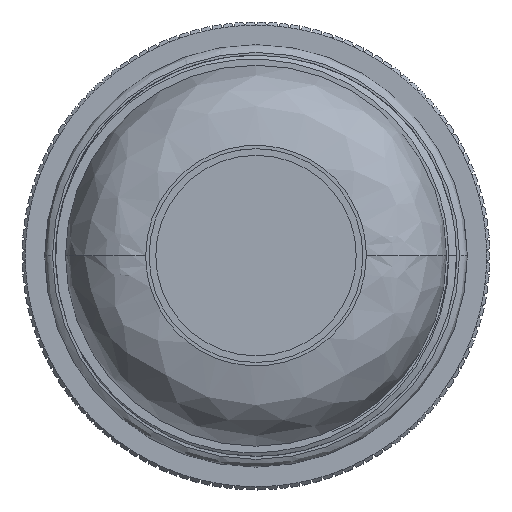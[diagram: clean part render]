
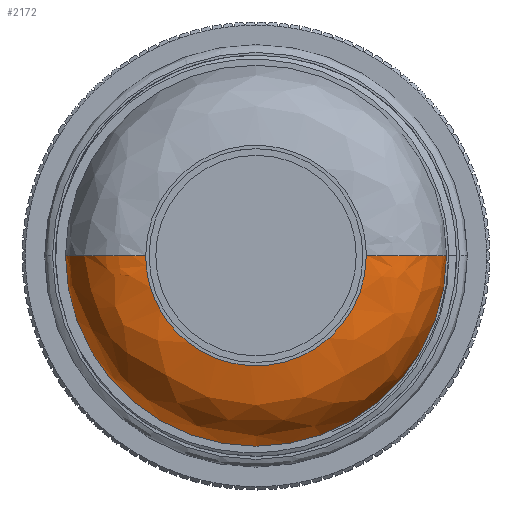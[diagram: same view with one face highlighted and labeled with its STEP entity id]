
A CAD part, top view. The second image highlights one B-rep face of the part: STEP entity #2172.
In plain terms, the highlighted free-form (B-spline) face has degree [3, 3] with [4, 4] control points.
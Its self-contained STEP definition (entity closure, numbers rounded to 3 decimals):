
#2046 = VERTEX_POINT ( 'NONE', #9429 ) ;
#2048 = ORIENTED_EDGE ( 'NONE', *, *, #2049, .F. ) ;
#2049 = EDGE_CURVE ( 'NONE', #2060, #2066, #9428, .T. ) ;
#2051 = ORIENTED_EDGE ( 'NONE', *, *, #2064, .T. ) ;
#2053 = VERTEX_POINT ( 'NONE', #9498 ) ;
#2059 = EDGE_CURVE ( 'NONE', #2060, #2053, #9470, .T. ) ;
#2060 = VERTEX_POINT ( 'NONE', #9469 ) ;
#2064 = EDGE_CURVE ( 'NONE', #2053, #2046, #9418, .T. ) ;
#2065 = ORIENTED_EDGE ( 'NONE', *, *, #2075, .T. ) ;
#2066 = VERTEX_POINT ( 'NONE', #9552 ) ;
#2068 = ORIENTED_EDGE ( 'NONE', *, *, #2059, .T. ) ;
#2075 = EDGE_CURVE ( 'NONE', #2046, #2066, #9541, .T. ) ;
#2076 = EDGE_LOOP ( 'NONE', ( #2068, #2051, #2065, #2048 ) ) ;
#2172 = ADVANCED_FACE ( 'NONE', ( #9759 ), #9950, .T. ) ;
#9418 = CIRCLE ( 'NONE', #9556, 12. ) ;
#9428 = CIRCLE ( 'NONE', #9502, 12. ) ;
#9429 = CARTESIAN_POINT ( 'NONE',  ( -28.5, 407., 63.5 ) ) ;
#9468 = CARTESIAN_POINT ( 'NONE',  ( 16.5, 407., 75.5 ) ) ;
#9469 = CARTESIAN_POINT ( 'NONE',  ( 16.5, 407., 75.5 ) ) ;
#9470 =( BOUNDED_CURVE ( )  B_SPLINE_CURVE ( 3, ( #9468, #9474, #9473, #9472 ),
 .UNSPECIFIED., .F., .T. ) 
 B_SPLINE_CURVE_WITH_KNOTS ( ( 4, 4 ),
 ( 0., 0.5 ),
 .UNSPECIFIED. ) 
 CURVE ( )  GEOMETRIC_REPRESENTATION_ITEM ( )  RATIONAL_B_SPLINE_CURVE ( ( 1., 0.333, 0.333, 1. ) ) 
 REPRESENTATION_ITEM ( '' )  );
#9472 = CARTESIAN_POINT ( 'NONE',  ( -16.5, 407., 75.5 ) ) ;
#9473 = CARTESIAN_POINT ( 'NONE',  ( -16.5, 374., 75.5 ) ) ;
#9474 = CARTESIAN_POINT ( 'NONE',  ( 16.5, 374., 75.5 ) ) ;
#9498 = CARTESIAN_POINT ( 'NONE',  ( -16.5, 407., 75.5 ) ) ;
#9499 = DIRECTION ( 'NONE',  ( 1., 0., 0. ) ) ;
#9500 = DIRECTION ( 'NONE',  ( 0., 1., 0. ) ) ;
#9501 = CARTESIAN_POINT ( 'NONE',  ( 16.5, 407., 63.5 ) ) ;
#9502 = AXIS2_PLACEMENT_3D ( 'NONE', #9501, #9500, #9499 ) ;
#9537 = DIRECTION ( 'NONE',  ( 0., -1., 0. ) ) ;
#9538 = DIRECTION ( 'NONE',  ( 0., 0., 1. ) ) ;
#9539 = CARTESIAN_POINT ( 'NONE',  ( 0., 407., 63.5 ) ) ;
#9540 = AXIS2_PLACEMENT_3D ( 'NONE', #9539, #9538, #9537 ) ;
#9541 = CIRCLE ( 'NONE', #9540, 28.5 ) ;
#9552 = CARTESIAN_POINT ( 'NONE',  ( 28.5, 407., 63.5 ) ) ;
#9553 = DIRECTION ( 'NONE',  ( -1., 0., 0. ) ) ;
#9554 = DIRECTION ( 'NONE',  ( 0., -1., 0. ) ) ;
#9555 = CARTESIAN_POINT ( 'NONE',  ( -16.5, 407., 63.5 ) ) ;
#9556 = AXIS2_PLACEMENT_3D ( 'NONE', #9555, #9554, #9553 ) ;
#9759 = FACE_OUTER_BOUND ( 'NONE', #2076, .T. ) ;
#9762 = CARTESIAN_POINT ( 'NONE',  ( 16.5, 407., 75.5 ) ) ;
#9763 = CARTESIAN_POINT ( 'NONE',  ( 16.5, 374., 75.5 ) ) ;
#9764 = CARTESIAN_POINT ( 'NONE',  ( -16.5, 374., 75.5 ) ) ;
#9765 = CARTESIAN_POINT ( 'NONE',  ( -16.5, 407., 75.5 ) ) ;
#9766 = CARTESIAN_POINT ( 'NONE',  ( 28.5, 407., 63.5 ) ) ;
#9767 = CARTESIAN_POINT ( 'NONE',  ( 28.5, 350., 63.5 ) ) ;
#9768 = CARTESIAN_POINT ( 'NONE',  ( -28.5, 350., 63.5 ) ) ;
#9769 = CARTESIAN_POINT ( 'NONE',  ( -28.5, 407., 63.5 ) ) ;
#9770 = CARTESIAN_POINT ( 'NONE',  ( 28.5, 407., 70.529 ) ) ;
#9771 = CARTESIAN_POINT ( 'NONE',  ( 28.5, 350., 70.529 ) ) ;
#9774 = CARTESIAN_POINT ( 'NONE',  ( -28.5, 350., 70.529 ) ) ;
#9775 = CARTESIAN_POINT ( 'NONE',  ( -28.5, 407., 70.529 ) ) ;
#9776 = CARTESIAN_POINT ( 'NONE',  ( 23.53, 407., 75.5 ) ) ;
#9777 = CARTESIAN_POINT ( 'NONE',  ( 23.53, 359.941, 75.5 ) ) ;
#9778 = CARTESIAN_POINT ( 'NONE',  ( -23.53, 359.941, 75.5 ) ) ;
#9779 = CARTESIAN_POINT ( 'NONE',  ( -23.53, 407., 75.5 ) ) ;
#9950 =( BOUNDED_SURFACE ( )  B_SPLINE_SURFACE ( 3, 3, ( 
 ( #9765, #9764, #9763, #9762 ),
 ( #9779, #9778, #9777, #9776 ),
 ( #9775, #9774, #9771, #9770 ),
 ( #9769, #9768, #9767, #9766 ) ),
 .UNSPECIFIED., .F., .F., .T. ) 
 B_SPLINE_SURFACE_WITH_KNOTS ( ( 4, 4 ),
 ( 4, 4 ),
 ( 0., 1. ),
 ( 0., 1. ),
 .UNSPECIFIED. ) 
 GEOMETRIC_REPRESENTATION_ITEM ( )  RATIONAL_B_SPLINE_SURFACE ( (
 ( 1., 0.333, 0.333, 1.),
 ( 0.805, 0.268, 0.268, 0.805),
 ( 0.805, 0.268, 0.268, 0.805),
 ( 1., 0.333, 0.333, 1.) ) ) 
 REPRESENTATION_ITEM ( '' )  SURFACE ( )  );
